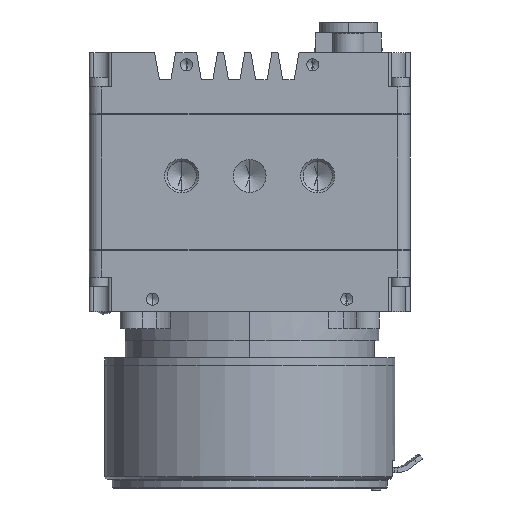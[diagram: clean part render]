
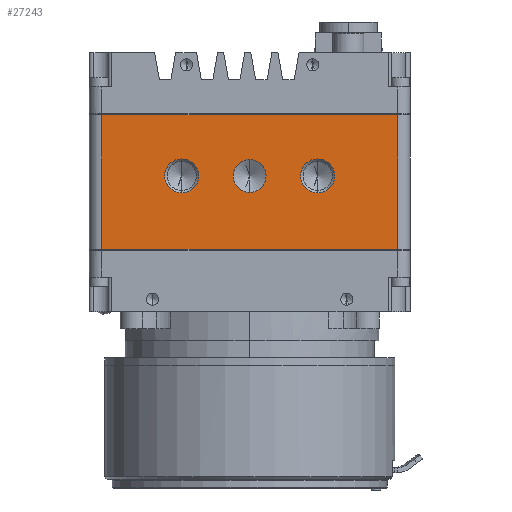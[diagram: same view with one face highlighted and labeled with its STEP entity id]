
A CAD part, front view. The second image highlights one B-rep face of the part: STEP entity #27243.
In plain terms, the highlighted planar face has unit normal (0, -1, 0).
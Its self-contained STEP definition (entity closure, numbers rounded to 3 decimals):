
#1130 = CARTESIAN_POINT ( 'NONE',  ( -14., -26.67, -9.2 ) ) ;
#1275 = VERTEX_POINT ( 'NONE', #5703 ) ;
#1375 = AXIS2_PLACEMENT_3D ( 'NONE', #25447, #16746, #6487 ) ;
#1525 = CIRCLE ( 'NONE', #1375, 3.5 ) ;
#2386 = FACE_BOUND ( 'NONE', #18828, .T. ) ;
#2660 = LINE ( 'NONE', #5977, #17448 ) ;
#2758 = CARTESIAN_POINT ( 'NONE',  ( -30.48, -26.67, -0.127 ) ) ;
#2761 = AXIS2_PLACEMENT_3D ( 'NONE', #3108, #15881, #7655 ) ;
#3108 = CARTESIAN_POINT ( 'NONE',  ( 14., -26.67, -12.7 ) ) ;
#3338 = EDGE_LOOP ( 'NONE', ( #25110, #4177 ) ) ;
#3585 = EDGE_LOOP ( 'NONE', ( #25202, #13200, #21294, #4906 ) ) ;
#3689 = FACE_BOUND ( 'NONE', #23836, .T. ) ;
#4177 = ORIENTED_EDGE ( 'NONE', *, *, #4340, .F. ) ;
#4299 = CARTESIAN_POINT ( 'NONE',  ( -14., -26.67, -16.2 ) ) ;
#4340 = EDGE_CURVE ( 'NONE', #11263, #12979, #17305, .T. ) ;
#4531 = CARTESIAN_POINT ( 'NONE',  ( -30.48, -26.67, 0. ) ) ;
#4555 = CARTESIAN_POINT ( 'NONE',  ( 0., -26.67, -9.322 ) ) ;
#4858 = VECTOR ( 'NONE', #18320, 1000. ) ;
#4906 = ORIENTED_EDGE ( 'NONE', *, *, #25937, .T. ) ;
#5309 = AXIS2_PLACEMENT_3D ( 'NONE', #24390, #11645, #26608 ) ;
#5703 = CARTESIAN_POINT ( 'NONE',  ( -30.48, -26.67, -27.813 ) ) ;
#5977 = CARTESIAN_POINT ( 'NONE',  ( -30.48, -26.67, -27.813 ) ) ;
#6064 = EDGE_CURVE ( 'NONE', #11172, #26724, #21610, .T. ) ;
#6180 = PLANE ( 'NONE',  #27130 ) ;
#6220 = CARTESIAN_POINT ( 'NONE',  ( 0., -26.67, -12.7 ) ) ;
#6314 = CARTESIAN_POINT ( 'NONE',  ( 14., -26.67, -16.2 ) ) ;
#6487 = DIRECTION ( 'NONE',  ( 0., 0., -1. ) ) ;
#6694 = FACE_OUTER_BOUND ( 'NONE', #3585, .T. ) ;
#7655 = DIRECTION ( 'NONE',  ( 0., 0., -1. ) ) ;
#7696 = VERTEX_POINT ( 'NONE', #26513 ) ;
#8449 = EDGE_CURVE ( 'NONE', #22285, #26488, #22314, .T. ) ;
#8525 = DIRECTION ( 'NONE',  ( 0., 0., 1. ) ) ;
#8703 = CIRCLE ( 'NONE', #26550, 3.378 ) ;
#9431 = ORIENTED_EDGE ( 'NONE', *, *, #9923, .F. ) ;
#9484 = VERTEX_POINT ( 'NONE', #1130 ) ;
#9923 = EDGE_CURVE ( 'NONE', #18882, #9484, #1525, .T. ) ;
#10208 = LINE ( 'NONE', #4531, #12194 ) ;
#10237 = CIRCLE ( 'NONE', #5309, 3.5 ) ;
#10408 = EDGE_CURVE ( 'NONE', #26488, #22285, #17602, .T. ) ;
#11172 = VERTEX_POINT ( 'NONE', #24904 ) ;
#11263 = VERTEX_POINT ( 'NONE', #4555 ) ;
#11604 = AXIS2_PLACEMENT_3D ( 'NONE', #25740, #15096, #19588 ) ;
#11645 = DIRECTION ( 'NONE',  ( 0., -1., 0. ) ) ;
#12194 = VECTOR ( 'NONE', #21605, 1000. ) ;
#12979 = VERTEX_POINT ( 'NONE', #18329 ) ;
#13061 = EDGE_CURVE ( 'NONE', #7696, #1275, #2660, .T. ) ;
#13200 = ORIENTED_EDGE ( 'NONE', *, *, #23917, .T. ) ;
#13615 = DIRECTION ( 'NONE',  ( 0., 0., -1. ) ) ;
#13866 = CARTESIAN_POINT ( 'NONE',  ( 0., -26.67, -12.7 ) ) ;
#14181 = ORIENTED_EDGE ( 'NONE', *, *, #8449, .F. ) ;
#15096 = DIRECTION ( 'NONE',  ( 0., -1., 0. ) ) ;
#15881 = DIRECTION ( 'NONE',  ( 0., -1., 0. ) ) ;
#16005 = DIRECTION ( 'NONE',  ( 0., -1., 0. ) ) ;
#16648 = DIRECTION ( 'NONE',  ( 0., 0., -1. ) ) ;
#16691 = CARTESIAN_POINT ( 'NONE',  ( 30.48, -26.67, 0. ) ) ;
#16701 = DIRECTION ( 'NONE',  ( 0., 1., 0. ) ) ;
#16746 = DIRECTION ( 'NONE',  ( 0., -1., 0. ) ) ;
#17305 = CIRCLE ( 'NONE', #22610, 3.378 ) ;
#17448 = VECTOR ( 'NONE', #25027, 1000. ) ;
#17602 = CIRCLE ( 'NONE', #11604, 3.5 ) ;
#17651 = VECTOR ( 'NONE', #8525, 1000. ) ;
#17826 = FACE_BOUND ( 'NONE', #3338, .T. ) ;
#17951 = LINE ( 'NONE', #16691, #17651 ) ;
#18320 = DIRECTION ( 'NONE',  ( -1., 0., 0. ) ) ;
#18329 = CARTESIAN_POINT ( 'NONE',  ( 0., -26.67, -16.078 ) ) ;
#18590 = CARTESIAN_POINT ( 'NONE',  ( -30.48, -26.67, -0.127 ) ) ;
#18785 = DIRECTION ( 'NONE',  ( 0., 0., 1. ) ) ;
#18828 = EDGE_LOOP ( 'NONE', ( #9431, #24716 ) ) ;
#18882 = VERTEX_POINT ( 'NONE', #4299 ) ;
#19588 = DIRECTION ( 'NONE',  ( 0., 0., -1. ) ) ;
#19713 = ORIENTED_EDGE ( 'NONE', *, *, #10408, .F. ) ;
#20563 = EDGE_CURVE ( 'NONE', #12979, #11263, #8703, .T. ) ;
#20964 = CARTESIAN_POINT ( 'NONE',  ( 14., -26.67, -9.2 ) ) ;
#21227 = EDGE_CURVE ( 'NONE', #9484, #18882, #10237, .T. ) ;
#21294 = ORIENTED_EDGE ( 'NONE', *, *, #13061, .F. ) ;
#21605 = DIRECTION ( 'NONE',  ( 0., 0., -1. ) ) ;
#21610 = LINE ( 'NONE', #18590, #4858 ) ;
#22285 = VERTEX_POINT ( 'NONE', #20964 ) ;
#22314 = CIRCLE ( 'NONE', #2761, 3.5 ) ;
#22610 = AXIS2_PLACEMENT_3D ( 'NONE', #6220, #24886, #16648 ) ;
#23836 = EDGE_LOOP ( 'NONE', ( #19713, #14181 ) ) ;
#23917 = EDGE_CURVE ( 'NONE', #26724, #1275, #10208, .T. ) ;
#24390 = CARTESIAN_POINT ( 'NONE',  ( -14., -26.67, -12.7 ) ) ;
#24716 = ORIENTED_EDGE ( 'NONE', *, *, #21227, .F. ) ;
#24886 = DIRECTION ( 'NONE',  ( 0., -1., 0. ) ) ;
#24904 = CARTESIAN_POINT ( 'NONE',  ( 30.48, -26.67, -0.127 ) ) ;
#25027 = DIRECTION ( 'NONE',  ( -1., 0., 0. ) ) ;
#25110 = ORIENTED_EDGE ( 'NONE', *, *, #20563, .F. ) ;
#25202 = ORIENTED_EDGE ( 'NONE', *, *, #6064, .T. ) ;
#25447 = CARTESIAN_POINT ( 'NONE',  ( -14., -26.67, -12.7 ) ) ;
#25740 = CARTESIAN_POINT ( 'NONE',  ( 14., -26.67, -12.7 ) ) ;
#25937 = EDGE_CURVE ( 'NONE', #7696, #11172, #17951, .T. ) ;
#26488 = VERTEX_POINT ( 'NONE', #6314 ) ;
#26513 = CARTESIAN_POINT ( 'NONE',  ( 30.48, -26.67, -27.813 ) ) ;
#26550 = AXIS2_PLACEMENT_3D ( 'NONE', #13866, #16005, #13615 ) ;
#26608 = DIRECTION ( 'NONE',  ( 0., 0., -1. ) ) ;
#26724 = VERTEX_POINT ( 'NONE', #2758 ) ;
#27130 = AXIS2_PLACEMENT_3D ( 'NONE', #27245, #16701, #18785 ) ;
#27243 = ADVANCED_FACE ( 'NONE', ( #2386, #3689, #17826, #6694 ), #6180, .F. ) ;
#27245 = CARTESIAN_POINT ( 'NONE',  ( -33.02, -26.67, 0. ) ) ;
